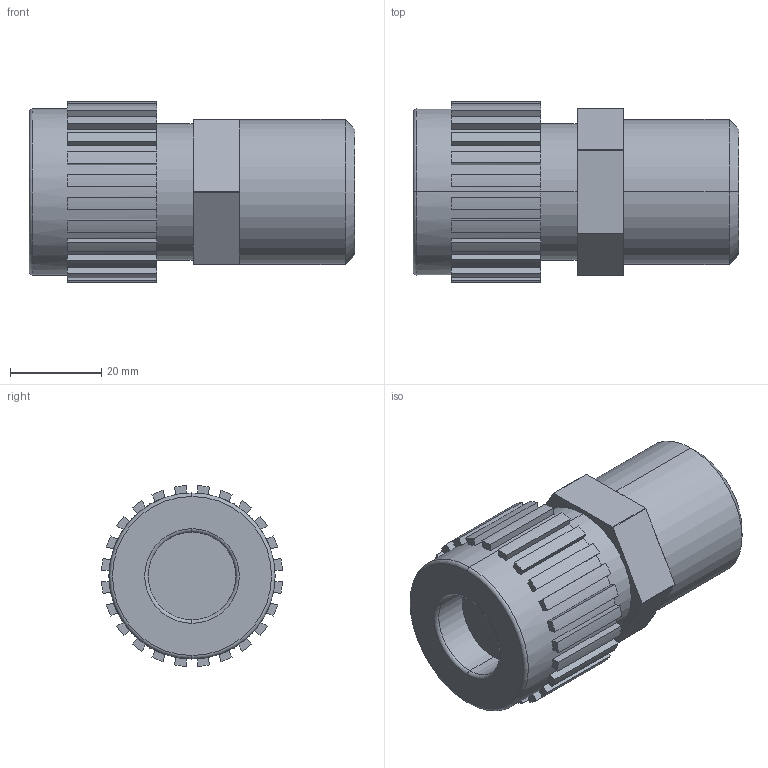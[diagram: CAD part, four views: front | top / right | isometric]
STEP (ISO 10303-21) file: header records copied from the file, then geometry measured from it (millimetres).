
FILE_DESCRIPTION (( 'STEP AP214' ), '1' );
FILE_NAME ('Fitting Pillar S-300 12.STEP', '2012-09-26T17:17:28', ( '' ), ( '' ), 'SwSTEP 2.0', 'SolidWorks 2012', '' );
FILE_SCHEMA (( 'AUTOMOTIVE_DESIGN' ));
Length unit declared in the file: inch
Products named in the file (1): Fitting Pillar S-300 12
Bounding box: 71.26 x 39.54 x 39.54 mm (x, y, z)
Volume: 62633 mm3; surface area: 12237.3 mm2
Topology: 1 solids, 1 shells, 133 faces, 370 edges, 242 vertices
Faces by surface type: plane 89, cylinder 38, torus 4, cone 2
Entity records: 4369 total; most frequent: DIRECTION 776, CARTESIAN_POINT 746, ORIENTED_EDGE 740, EDGE_CURVE 370, AXIS2_PLACEMENT_3D 272, VERTEX_POINT 242, VECTOR 232, LINE 232
